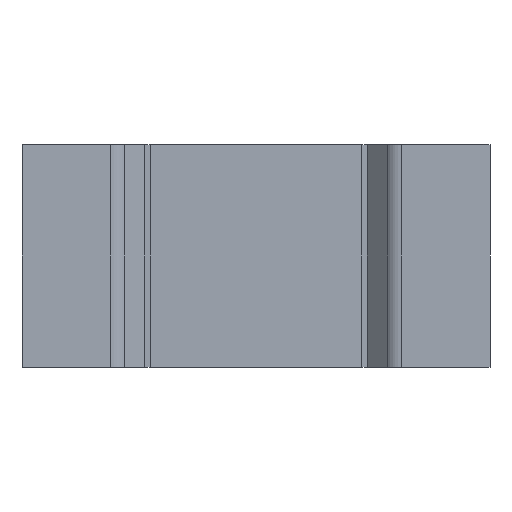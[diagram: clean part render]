
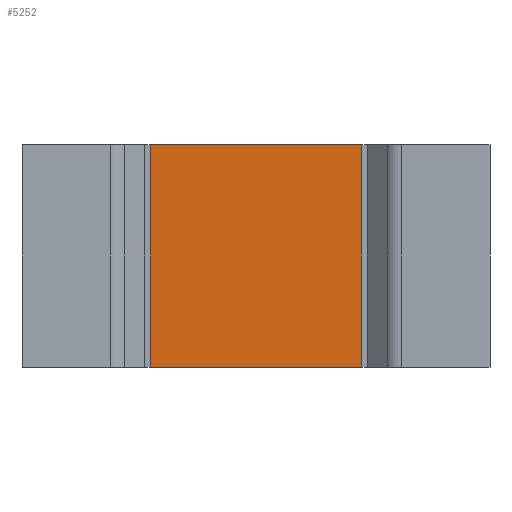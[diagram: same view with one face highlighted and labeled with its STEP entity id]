
A CAD part, front view. The second image highlights one B-rep face of the part: STEP entity #5252.
In plain terms, the highlighted planar face has unit normal (0, -1, 0).
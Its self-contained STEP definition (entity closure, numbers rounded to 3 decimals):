
#73 = LINE ( 'NONE', #1912, #4262 ) ;
#366 = CARTESIAN_POINT ( 'NONE',  ( 1.425, 0., 1.5 ) ) ;
#402 = VERTEX_POINT ( 'NONE', #3608 ) ;
#640 = CARTESIAN_POINT ( 'NONE',  ( -1.425, 0., -1.5 ) ) ;
#1017 = CARTESIAN_POINT ( 'NONE',  ( 1.425, 0., 1.5 ) ) ;
#1075 = CARTESIAN_POINT ( 'NONE',  ( -1.425, 0., -1.5 ) ) ;
#1095 = VECTOR ( 'NONE', #2837, 1000. ) ;
#1116 = DIRECTION ( 'NONE',  ( 0., 1., 0. ) ) ;
#1143 = VERTEX_POINT ( 'NONE', #1075 ) ;
#1377 = CARTESIAN_POINT ( 'NONE',  ( 1.425, 0., -1.5 ) ) ;
#1662 = LINE ( 'NONE', #366, #5317 ) ;
#1912 = CARTESIAN_POINT ( 'NONE',  ( -1.425, 0., 1.5 ) ) ;
#1972 = LINE ( 'NONE', #640, #1095 ) ;
#1990 = FACE_OUTER_BOUND ( 'NONE', #3330, .T. ) ;
#2177 = ORIENTED_EDGE ( 'NONE', *, *, #3355, .F. ) ;
#2210 = ORIENTED_EDGE ( 'NONE', *, *, #5235, .T. ) ;
#2251 = VERTEX_POINT ( 'NONE', #1017 ) ;
#2548 = CARTESIAN_POINT ( 'NONE',  ( -1.425, 0., 1.5 ) ) ;
#2564 = EDGE_CURVE ( 'NONE', #402, #2251, #73, .T. ) ;
#2705 = EDGE_CURVE ( 'NONE', #1143, #3589, #1972, .T. ) ;
#2804 = DIRECTION ( 'NONE',  ( 1., 0., 0. ) ) ;
#2837 = DIRECTION ( 'NONE',  ( 1., 0., 0. ) ) ;
#2909 = ORIENTED_EDGE ( 'NONE', *, *, #2564, .F. ) ;
#2977 = CARTESIAN_POINT ( 'NONE',  ( -1.425, 0., 1.5 ) ) ;
#3168 = ORIENTED_EDGE ( 'NONE', *, *, #2705, .T. ) ;
#3330 = EDGE_LOOP ( 'NONE', ( #3168, #2177, #2909, #2210 ) ) ;
#3355 = EDGE_CURVE ( 'NONE', #2251, #3589, #1662, .T. ) ;
#3429 = DIRECTION ( 'NONE',  ( 0., 0., -1. ) ) ;
#3589 = VERTEX_POINT ( 'NONE', #1377 ) ;
#3608 = CARTESIAN_POINT ( 'NONE',  ( -1.425, 0., 1.5 ) ) ;
#3815 = AXIS2_PLACEMENT_3D ( 'NONE', #2548, #1116, #4305 ) ;
#4262 = VECTOR ( 'NONE', #2804, 1000. ) ;
#4305 = DIRECTION ( 'NONE',  ( 0., 0., 1. ) ) ;
#4777 = VECTOR ( 'NONE', #3429, 1000. ) ;
#4814 = LINE ( 'NONE', #2977, #4777 ) ;
#5235 = EDGE_CURVE ( 'NONE', #402, #1143, #4814, .T. ) ;
#5237 = PLANE ( 'NONE',  #3815 ) ;
#5252 = ADVANCED_FACE ( 'NONE', ( #1990 ), #5237, .F. ) ;
#5317 = VECTOR ( 'NONE', #5483, 1000. ) ;
#5483 = DIRECTION ( 'NONE',  ( 0., 0., -1. ) ) ;
